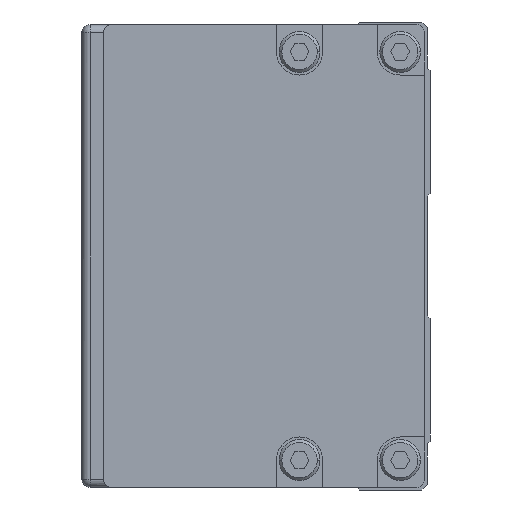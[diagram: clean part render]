
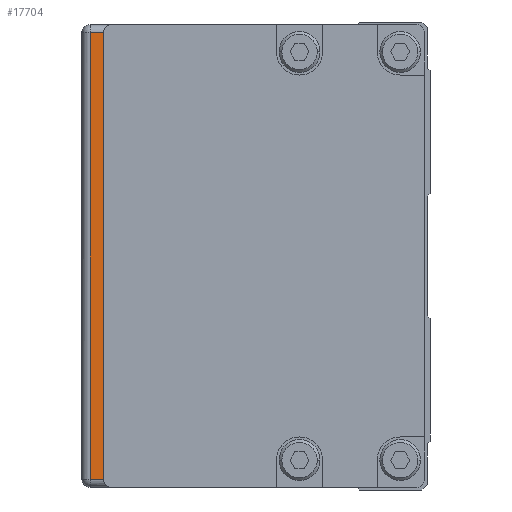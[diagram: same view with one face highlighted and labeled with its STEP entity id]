
A CAD part, left-side view. The second image highlights one B-rep face of the part: STEP entity #17704.
In plain terms, the highlighted planar face has unit normal (-1, 0, 0).
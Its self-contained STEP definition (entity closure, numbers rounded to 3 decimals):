
#969 = EDGE_CURVE ( 'NONE', #5967, #14462, #18523, .T. ) ;
#1500 = DIRECTION ( 'NONE',  ( 0., 0., -1. ) ) ;
#1934 = AXIS2_PLACEMENT_3D ( 'NONE', #9069, #15284, #1500 ) ;
#2362 = CARTESIAN_POINT ( 'NONE',  ( 433., 28., 41. ) ) ;
#2693 = CARTESIAN_POINT ( 'NONE',  ( 433., 28., -41. ) ) ;
#2848 = PLANE ( 'NONE',  #1934 ) ;
#4253 = LINE ( 'NONE', #14157, #15762 ) ;
#4809 = LINE ( 'NONE', #13569, #10322 ) ;
#5402 = ORIENTED_EDGE ( 'NONE', *, *, #18907, .F. ) ;
#5967 = VERTEX_POINT ( 'NONE', #2693 ) ;
#6091 = LINE ( 'NONE', #8853, #6588 ) ;
#6543 = DIRECTION ( 'NONE',  ( 0., 0., 1. ) ) ;
#6588 = VECTOR ( 'NONE', #9044, 1000. ) ;
#6897 = VERTEX_POINT ( 'NONE', #15777 ) ;
#7219 = DIRECTION ( 'NONE',  ( 0., 1., 0. ) ) ;
#8561 = CARTESIAN_POINT ( 'NONE',  ( 433., 30.5, 41. ) ) ;
#8853 = CARTESIAN_POINT ( 'NONE',  ( 433., 30.5, 41. ) ) ;
#9044 = DIRECTION ( 'NONE',  ( 0., -1., 0. ) ) ;
#9069 = CARTESIAN_POINT ( 'NONE',  ( 433., 32., 45. ) ) ;
#10322 = VECTOR ( 'NONE', #7219, 1000. ) ;
#11532 = ORIENTED_EDGE ( 'NONE', *, *, #969, .T. ) ;
#13530 = EDGE_LOOP ( 'NONE', ( #11532, #16294, #5402, #18511 ) ) ;
#13569 = CARTESIAN_POINT ( 'NONE',  ( 433., 28., -41. ) ) ;
#13952 = EDGE_CURVE ( 'NONE', #19459, #14462, #6091, .T. ) ;
#14157 = CARTESIAN_POINT ( 'NONE',  ( 433., 30.5, 31.5 ) ) ;
#14462 = VERTEX_POINT ( 'NONE', #2362 ) ;
#15284 = DIRECTION ( 'NONE',  ( 1., 0., 0. ) ) ;
#15659 = VECTOR ( 'NONE', #6543, 1000. ) ;
#15732 = CARTESIAN_POINT ( 'NONE',  ( 433., 28., -19.25 ) ) ;
#15762 = VECTOR ( 'NONE', #17246, 1000. ) ;
#15777 = CARTESIAN_POINT ( 'NONE',  ( 433., 30.5, -41. ) ) ;
#16294 = ORIENTED_EDGE ( 'NONE', *, *, #13952, .F. ) ;
#16761 = FACE_OUTER_BOUND ( 'NONE', #13530, .T. ) ;
#17011 = EDGE_CURVE ( 'NONE', #5967, #6897, #4809, .T. ) ;
#17246 = DIRECTION ( 'NONE',  ( 0., 0., 1. ) ) ;
#17704 = ADVANCED_FACE ( 'NONE', ( #16761 ), #2848, .F. ) ;
#18511 = ORIENTED_EDGE ( 'NONE', *, *, #17011, .F. ) ;
#18523 = LINE ( 'NONE', #15732, #15659 ) ;
#18907 = EDGE_CURVE ( 'NONE', #6897, #19459, #4253, .T. ) ;
#19459 = VERTEX_POINT ( 'NONE', #8561 ) ;
